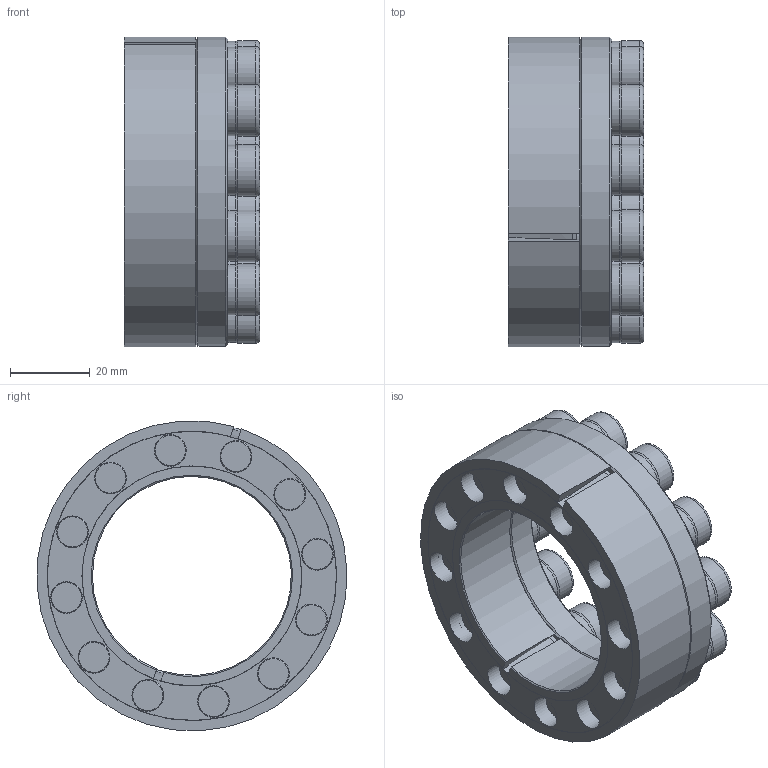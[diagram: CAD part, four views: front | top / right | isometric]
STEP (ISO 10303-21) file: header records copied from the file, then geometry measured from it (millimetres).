
FILE_DESCRIPTION((''),'2;1');
FILE_NAME('M:\Disegni 3D\CALETTATORI\RCK 45\50x78 - 06450050\Assieme chiuso.stp','2015-12-17T09:08:45',('fabietto'),(''),'Autodesk Inventor 2013','Autodesk Inventor 2013','');
FILE_SCHEMA(('AUTOMOTIVE_DESIGN { 1 0 10303 214 1 1 1 1 }'));
Length unit declared in the file: millimetre
Products named in the file (7): Assieme chiuso; Anello di spinta; Anello esterno; Anello interno; Tronco; Vite di bloccaggio M8x22 - Brunita; Vite di bloccaggio M8x22 - Zincata
Assembly tree (16 placements, depth 2):
  Assieme chiuso
    Anello di spinta
    Anello esterno
    Anello interno
    Tronco
    Vite di bloccaggio M8x22 - Brunita  x9
    Vite di bloccaggio M8x22 - Zincata  x3
Bounding box: 34 x 77.9 x 77.85 mm (x, y, z)
Volume: 80373.7 mm3; surface area: 54616 mm2
Topology: 16 solids, 16 shells, 402 faces, 852 edges, 506 vertices
Faces by surface type: plane 204, cylinder 140, torus 36, cone 22
Full cylindrical faces by diameter (mm): 8 x24, 9 x12, 12.7 x12, 13 x12, 50.3 x1, 51.32 x1, 76.67 x1, 77.7 x1
Entity records: 3232 total; most frequent: DIRECTION 570, CARTESIAN_POINT 495, ORIENTED_EDGE 400, AXIS2_PLACEMENT_3D 239, EDGE_LOOP 216, EDGE_CURVE 200, VERTEX_POINT 152, FACE_OUTER_BOUND 112
